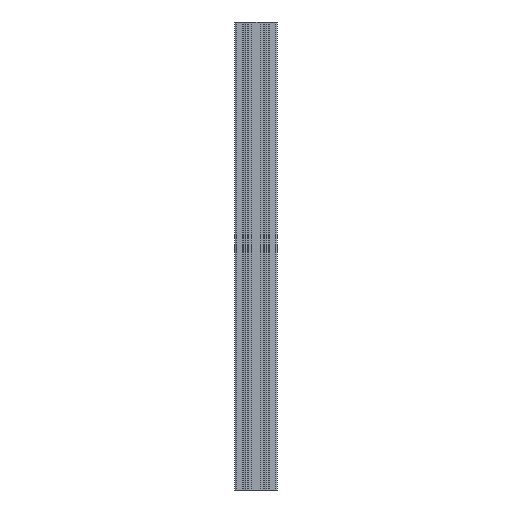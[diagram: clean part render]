
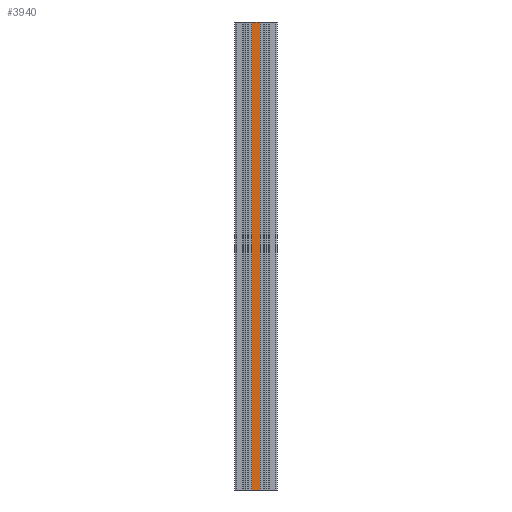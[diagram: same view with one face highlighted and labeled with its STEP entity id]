
A CAD part, left-side view. The second image highlights one B-rep face of the part: STEP entity #3940.
In plain terms, the highlighted planar face has unit normal (-1, 0, 0).
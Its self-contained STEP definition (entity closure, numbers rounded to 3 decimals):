
#268 = LINE ( 'NONE', #3534, #5045 ) ;
#706 = CARTESIAN_POINT ( 'NONE',  ( 93.34, 238.778, 0. ) ) ;
#718 = LINE ( 'NONE', #4359, #2192 ) ;
#722 = EDGE_CURVE ( 'NONE', #5051, #1433, #718, .T. ) ;
#788 = CARTESIAN_POINT ( 'NONE',  ( 93.34, 256.278, 0. ) ) ;
#1038 = EDGE_CURVE ( 'NONE', #1433, #4083, #3155, .T. ) ;
#1119 = VERTEX_POINT ( 'NONE', #3252 ) ;
#1308 = CARTESIAN_POINT ( 'NONE',  ( 93.34, 238.778, -1000. ) ) ;
#1318 = ORIENTED_EDGE ( 'NONE', *, *, #1038, .F. ) ;
#1433 = VERTEX_POINT ( 'NONE', #788 ) ;
#1504 = VECTOR ( 'NONE', #5047, 1000. ) ;
#1885 = DIRECTION ( 'NONE',  ( 0., 0., 1. ) ) ;
#2122 = VECTOR ( 'NONE', #5055, 1000. ) ;
#2192 = VECTOR ( 'NONE', #1885, 1000. ) ;
#2459 = ORIENTED_EDGE ( 'NONE', *, *, #2493, .T. ) ;
#2493 = EDGE_CURVE ( 'NONE', #1119, #4083, #3992, .T. ) ;
#3138 = FACE_OUTER_BOUND ( 'NONE', #6507, .T. ) ;
#3155 = LINE ( 'NONE', #5021, #1504 ) ;
#3235 = CARTESIAN_POINT ( 'NONE',  ( 93.34, 256.278, -1000. ) ) ;
#3252 = CARTESIAN_POINT ( 'NONE',  ( 93.34, 238.778, -1000. ) ) ;
#3534 = CARTESIAN_POINT ( 'NONE',  ( 93.34, 256.278, -1000. ) ) ;
#3940 = ADVANCED_FACE ( 'NONE', ( #3138 ), #6187, .T. ) ;
#3992 = LINE ( 'NONE', #1308, #2122 ) ;
#4083 = VERTEX_POINT ( 'NONE', #706 ) ;
#4318 = DIRECTION ( 'NONE',  ( 0., 0., 1. ) ) ;
#4359 = CARTESIAN_POINT ( 'NONE',  ( 93.34, 256.278, -1000. ) ) ;
#5021 = CARTESIAN_POINT ( 'NONE',  ( 93.34, 256.278, 0. ) ) ;
#5045 = VECTOR ( 'NONE', #7276, 1000. ) ;
#5047 = DIRECTION ( 'NONE',  ( 0., -1., 0. ) ) ;
#5051 = VERTEX_POINT ( 'NONE', #3235 ) ;
#5055 = DIRECTION ( 'NONE',  ( 0., 0., 1. ) ) ;
#5199 = ORIENTED_EDGE ( 'NONE', *, *, #722, .F. ) ;
#5410 = AXIS2_PLACEMENT_3D ( 'NONE', #7426, #8043, #4318 ) ;
#6187 = PLANE ( 'NONE',  #5410 ) ;
#6507 = EDGE_LOOP ( 'NONE', ( #1318, #5199, #7570, #2459 ) ) ;
#7276 = DIRECTION ( 'NONE',  ( 0., -1., 0. ) ) ;
#7426 = CARTESIAN_POINT ( 'NONE',  ( 93.34, 256.278, -1000. ) ) ;
#7570 = ORIENTED_EDGE ( 'NONE', *, *, #7863, .T. ) ;
#7863 = EDGE_CURVE ( 'NONE', #5051, #1119, #268, .T. ) ;
#8043 = DIRECTION ( 'NONE',  ( -1., 0., 0. ) ) ;
